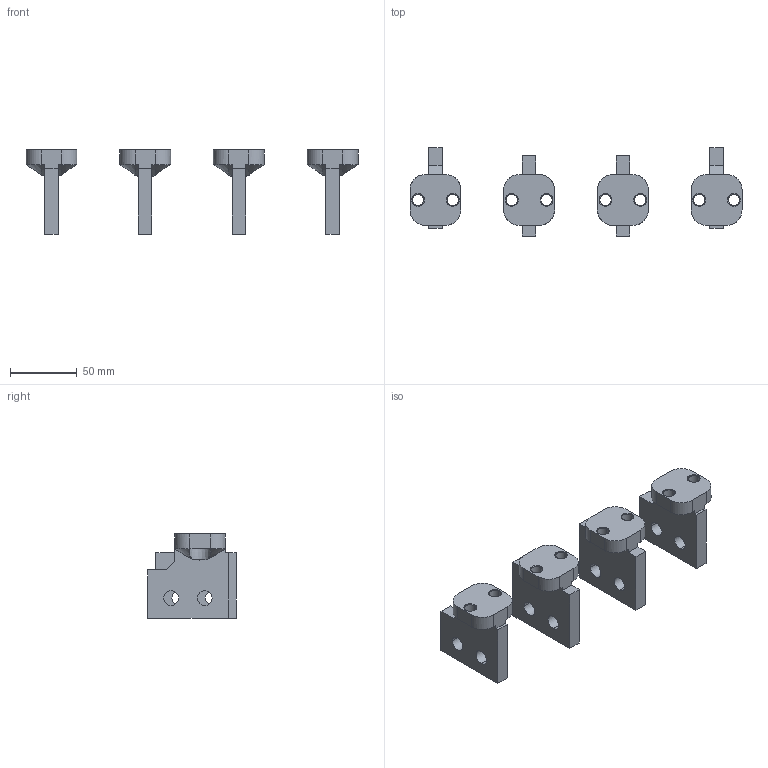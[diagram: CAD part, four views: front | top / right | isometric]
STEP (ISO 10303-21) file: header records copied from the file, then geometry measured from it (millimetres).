
FILE_DESCRIPTION (( 'STEP AP203' ), '1' );
FILE_NAME ('Âûâîäû âåðòèê. âåðõíèå äëÿ âûêàòíîãî íà 800-1000À 4P.STEP', '2024-06-25T10:13:44', ( '' ), ( '' ), 'SwSTEP 2.0', 'SolidWorks 2018', '' );
FILE_SCHEMA (( 'CONFIG_CONTROL_DESIGN' ));
Length unit declared in the file: millimetre
Products named in the file (1): Âûâîäû âåðòèê. âåðõíèå äëÿ âûêàòíîãî íà 800-1000À 4P
Bounding box: 248 x 66 x 63 mm (x, y, z)
Volume: 170023.8 mm3; surface area: 48739.3 mm2
Topology: 4 solids, 4 shells, 258 faces, 676 edges, 426 vertices
Faces by surface type: plane 96, bspline 82, cylinder 56, cone 24
Entity records: 21729 total; most frequent: CARTESIAN_POINT 15859, ORIENTED_EDGE 1352, DIRECTION 978, EDGE_CURVE 676, VERTEX_POINT 426, AXIS2_PLACEMENT_3D 351, EDGE_LOOP 290, LINE 276
